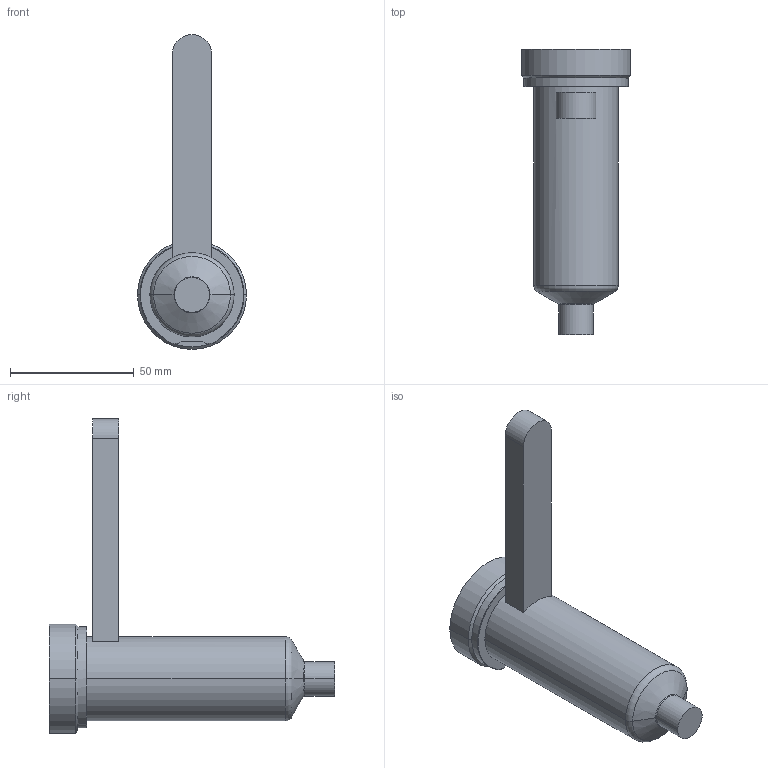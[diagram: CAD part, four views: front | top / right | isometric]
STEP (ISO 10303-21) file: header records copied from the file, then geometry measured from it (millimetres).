
FILE_DESCRIPTION((''),'2;1');
FILE_NAME('EO10_PG-FBE_WR_090_COT','2024-02-19T12:00:03',('sundharh'),(''),'CREO PARAMETRIC BY PTC INC, 2023154','CREO PARAMETRIC BY PTC INC, 2023154','');
FILE_SCHEMA(('CONFIG_CONTROL_DESIGN'));
Length unit declared in the file: millimetre
Products named in the file (1): EO10_PG-FBE_WR_090_COT
Bounding box: 44 x 115 x 127 mm (x, y, z)
Volume: 115808.5 mm3; surface area: 18964.5 mm2
Topology: 1 solids, 1 shells, 31 faces, 67 edges, 40 vertices
Faces by surface type: cylinder 11, plane 9, torus 7, cone 4
Entity records: 959 total; most frequent: CARTESIAN_POINT 226, DIRECTION 159, ORIENTED_EDGE 134, AXIS2_PLACEMENT_3D 67, EDGE_CURVE 67, VERTEX_POINT 40, CIRCLE 36, EDGE_LOOP 33
